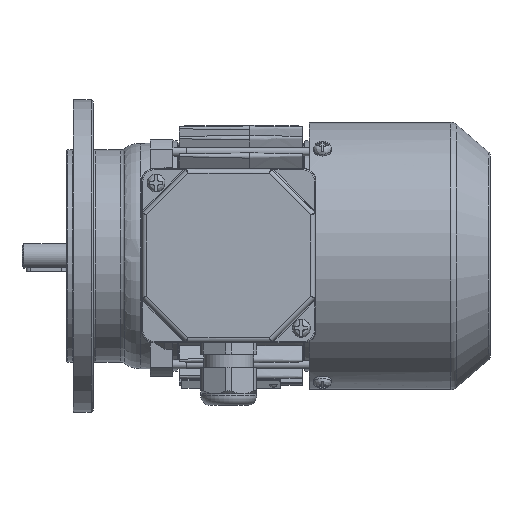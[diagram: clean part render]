
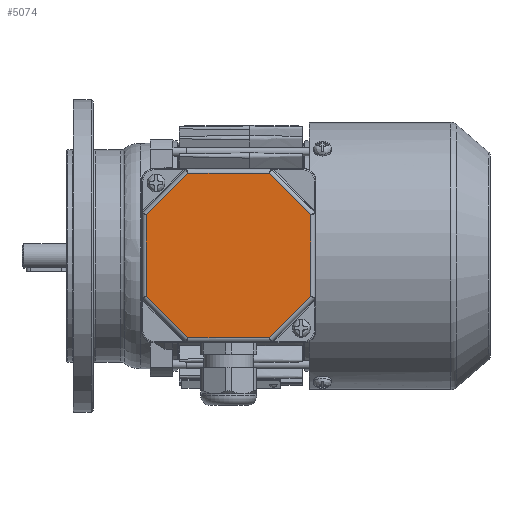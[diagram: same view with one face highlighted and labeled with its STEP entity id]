
A CAD part, top view. The second image highlights one B-rep face of the part: STEP entity #5074.
In plain terms, the highlighted planar face has unit normal (0, 0, 1).
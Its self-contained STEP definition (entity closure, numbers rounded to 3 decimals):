
#5074 = ADVANCED_FACE( '', ( #10122 ), #10123, .T. );
#10122 = FACE_OUTER_BOUND( '', #23396, .T. );
#10123 = PLANE( '', #23397 );
#23396 = EDGE_LOOP( '', ( #37406, #37407, #37408, #37409, #37410, #37411, #37412, #37413 ) );
#23397 = AXIS2_PLACEMENT_3D( '', #37414, #37415, #37416 );
#37406 = ORIENTED_EDGE( '', *, *, #43547, .T. );
#37407 = ORIENTED_EDGE( '', *, *, #42489, .T. );
#37408 = ORIENTED_EDGE( '', *, *, #44137, .T. );
#37409 = ORIENTED_EDGE( '', *, *, #41647, .T. );
#37410 = ORIENTED_EDGE( '', *, *, #44120, .T. );
#37411 = ORIENTED_EDGE( '', *, *, #44285, .T. );
#37412 = ORIENTED_EDGE( '', *, *, #40322, .T. );
#37413 = ORIENTED_EDGE( '', *, *, #42048, .T. );
#37414 = CARTESIAN_POINT( '', ( -39., 39., 12. ) );
#37415 = DIRECTION( '', ( 0., 0., 1. ) );
#37416 = DIRECTION( '', ( 1., 0., 0. ) );
#40322 = EDGE_CURVE( '', #48153, #48154, #48155, .F. );
#41647 = EDGE_CURVE( '', #46060, #50307, #50308, .T. );
#42048 = EDGE_CURVE( '', #48154, #50879, #50881, .T. );
#42489 = EDGE_CURVE( '', #51151, #51470, #51471, .T. );
#43547 = EDGE_CURVE( '', #50879, #51151, #52776, .F. );
#44120 = EDGE_CURVE( '', #50307, #52896, #53421, .F. );
#44137 = EDGE_CURVE( '', #51470, #46060, #53440, .F. );
#44285 = EDGE_CURVE( '', #52896, #48153, #53585, .T. );
#46060 = VERTEX_POINT( '', #55327 );
#48153 = VERTEX_POINT( '', #59335 );
#48154 = VERTEX_POINT( '', #59336 );
#48155 = LINE( '', #59337, #59338 );
#50307 = VERTEX_POINT( '', #63609 );
#50308 = LINE( '', #63610, #63611 );
#50879 = VERTEX_POINT( '', #64799 );
#50881 = LINE( '', #64801, #64802 );
#51151 = VERTEX_POINT( '', #65491 );
#51470 = VERTEX_POINT( '', #66321 );
#51471 = LINE( '', #66322, #66323 );
#52776 = LINE( '', #69600, #69601 );
#52896 = VERTEX_POINT( '', #69896 );
#53421 = LINE( '', #71099, #71100 );
#53440 = LINE( '', #71123, #71124 );
#53585 = LINE( '', #71334, #71335 );
#55327 = CARTESIAN_POINT( '', ( -18.255, 36.825, 12. ) );
#59335 = CARTESIAN_POINT( '', ( -18.255, -36.825, 12. ) );
#59336 = CARTESIAN_POINT( '', ( 18.255, -36.825, 12. ) );
#59337 = CARTESIAN_POINT( '', ( 19.069, -36.825, 12. ) );
#59338 = VECTOR( '', #74112, 1000. );
#63609 = CARTESIAN_POINT( '', ( -36.825, 18.255, 12. ) );
#63610 = CARTESIAN_POINT( '', ( -37.401, 17.679, 12. ) );
#63611 = VECTOR( '', #75962, 1000. );
#64799 = CARTESIAN_POINT( '', ( 36.825, -18.255, 12. ) );
#64801 = CARTESIAN_POINT( '', ( 37.401, -17.679, 12. ) );
#64802 = VECTOR( '', #76365, 1000. );
#65491 = CARTESIAN_POINT( '', ( 36.825, 18.255, 12. ) );
#66321 = CARTESIAN_POINT( '', ( 18.255, 36.825, 12. ) );
#66322 = CARTESIAN_POINT( '', ( 17.679, 37.401, 12. ) );
#66323 = VECTOR( '', #76772, 1000. );
#69600 = CARTESIAN_POINT( '', ( 36.825, 19.069, 12. ) );
#69601 = VECTOR( '', #77658, 1000. );
#69896 = CARTESIAN_POINT( '', ( -36.825, -18.255, 12. ) );
#71099 = CARTESIAN_POINT( '', ( -36.825, -19.069, 12. ) );
#71100 = VECTOR( '', #78085, 1000. );
#71123 = CARTESIAN_POINT( '', ( -19.069, 36.825, 12. ) );
#71124 = VECTOR( '', #78093, 1000. );
#71334 = CARTESIAN_POINT( '', ( -17.679, -37.401, 12. ) );
#71335 = VECTOR( '', #78143, 1000. );
#74112 = DIRECTION( '', ( -1., 0., 0. ) );
#75962 = DIRECTION( '', ( -0.707, -0.707, 0. ) );
#76365 = DIRECTION( '', ( 0.707, 0.707, 0. ) );
#76772 = DIRECTION( '', ( -0.707, 0.707, 0. ) );
#77658 = DIRECTION( '', ( 0., -1., 0. ) );
#78085 = DIRECTION( '', ( 0., 1., 0. ) );
#78093 = DIRECTION( '', ( 1., 0., 0. ) );
#78143 = DIRECTION( '', ( 0.707, -0.707, 0. ) );
